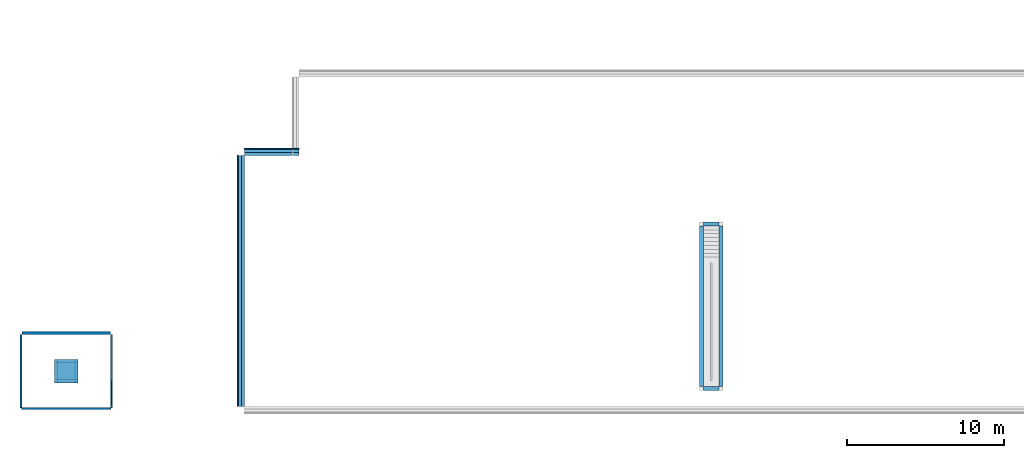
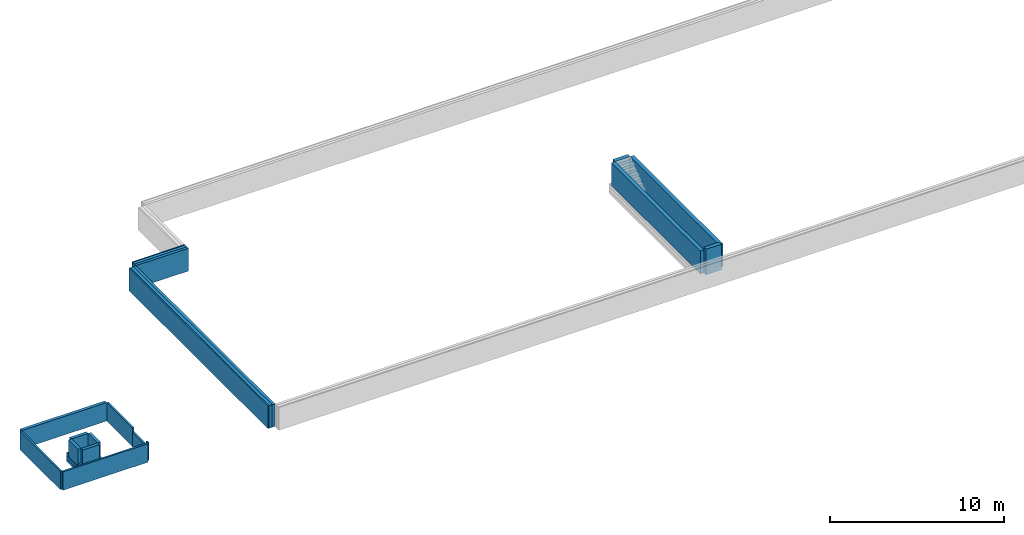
# One storey, part 1 of 3: 14 walls, 10 building element parts, 3 elements without a shape of their own.
"""IFC2X3 building model written with IfcOpenShell, lengths in millimetres."""

from ifc_helpers import new_model, entity, si_unit, converted_unit, derived_unit, money_unit, direction, frame, origin_with_axes, place, context, subcontext, project, spatial, polyline, outline, extrude, material, layer, layer_set, layer_usage, type_object, element, aggregate, save


model = new_model("IFC2X3")

# Units and contexts
model_context = context("Model", 3, precision=0.01, world=origin_with_axes(), true_north=direction((0.0, 1.0)))
body_context = subcontext(model_context, "Body", "Model", "MODEL_VIEW")
ifc_project = project(units=[si_unit("LENGTHUNIT", "METRE", prefix="MILLI"), si_unit("AREAUNIT", "SQUARE_METRE"), si_unit("VOLUMEUNIT", "CUBIC_METRE"), converted_unit("PLANEANGLEUNIT", "DEGREE", entity("IfcPlaneAngleMeasure", 0.0174532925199), si_unit("PLANEANGLEUNIT", "RADIAN"), dimensions=[0, 0, 0, 0, 0, 0, 0]), si_unit("SOLIDANGLEUNIT", "STERADIAN"), money_unit("EUR"), converted_unit("TIMEUNIT", "Year", entity("IfcTimeMeasure", 31556926.0), si_unit("TIMEUNIT", "SECOND"), dimensions=[0, 0, 1, 0, 0, 0, 0]), si_unit("MASSUNIT", "GRAM", prefix="KILO"), si_unit("THERMODYNAMICTEMPERATUREUNIT", "DEGREE_CELSIUS"), si_unit("LUMINOUSINTENSITYUNIT", "LUMEN"), si_unit("ENERGYUNIT", "JOULE", prefix="MEGA"), derived_unit("THERMALCONDUCTANCEUNIT", [(si_unit("POWERUNIT", "WATT"), 1), (si_unit("LENGTHUNIT", "METRE"), -1), (si_unit("THERMODYNAMICTEMPERATUREUNIT", "KELVIN"), -1)]), derived_unit("SPECIFICHEATCAPACITYUNIT", [(si_unit("ENERGYUNIT", "JOULE"), 1), (si_unit("MASSUNIT", "GRAM", prefix="KILO"), -1), (si_unit("THERMODYNAMICTEMPERATUREUNIT", "KELVIN"), -1)]), derived_unit("MASSDENSITYUNIT", [(si_unit("MASSUNIT", "GRAM", prefix="KILO"), 1), (si_unit("VOLUMEUNIT", "CUBIC_METRE"), -1)])], contexts=[model_context])

# Site, building, storey
site_placement = place(None, origin_with_axes())
site = spatial("IfcSite", under=ifc_project, at=site_placement, Name="Politse- ja Piirivalveameti ning Päästeameti ühishoone", CompositionType="ELEMENT")
building_placement = place(site_placement, origin_with_axes())
building = spatial("IfcBuilding", under=site, at=building_placement, Name="Politse- ja Piirivalveameti ning Päästeameti ühishoone", CompositionType="ELEMENT")
storey_placement = place(building_placement, frame((0.0, 0.0, -4000.0), z_axis=(0.0, 0.0, 1.0), x_axis=(1.0, 0.0, 0.0)))
storey = spatial("IfcBuildingStorey", under=building, at=storey_placement, Name="Vundament", CompositionType="ELEMENT", Elevation=-4000.0)

# Walls
ifc_material_1 = material(Name="KON-04_Betoon - Konstuktsioon")
ifc_layer_1 = layer(ifc_material_1, 250.0, ventilated="UNKNOWN")
ifc_layer_set_1 = layer_set([ifc_layer_1], Name="SS-09 remondikanali sein")
ifc_layer_usage_1 = layer_usage(ifc_layer_set_1, "AXIS2", "NEGATIVE", 0.0)
wall_type_1 = type_object("IfcWallType", Name="SS-09 remondikanali sein 250", PredefinedType="NOTDEFINED")
wall_1_placement = place(storey_placement, frame((29259.7054661, 1260.2911514, 2200.46188572), z_axis=(0.0, 0.0, 1.0), x_axis=(1.0, 0.0, 0.0)))
element("IfcWallStandardCase", 1, at=wall_1_placement, inside=storey, type_object=wall_type_1, material=ifc_layer_usage_1, Name="Välissein", context=body_context, shape_type="SweptSolid", body=[
    extrude(outline(polyline([(0.0, -250.0), (1000.0, -250.0), (1000.0, 0.0), (0.0, 0.0), (0.0, -250.0)])), origin_with_axes(), (0.0, 0.0, 1.0), 1799.53811428),
])
ifc_layer_usage_2 = layer_usage(ifc_layer_set_1, "AXIS2", "NEGATIVE", 0.0)
wall_2_placement = place(storey_placement, frame((29259.7054661, 11510.2911514, 2200.46188572), z_axis=(0.0, 0.0, 1.0), x_axis=(0.0, -1.0, 0.0)))
element("IfcWallStandardCase", 2, at=wall_2_placement, inside=storey, type_object=wall_type_1, material=ifc_layer_usage_2, Name="SS-09", context=body_context, shape_type="SweptSolid", body=[
    extrude(outline(polyline([(0.0, -250.0), (10250.0, -250.0), (10250.0, 0.0), (0.0, 0.0), (0.0, -250.0)])), origin_with_axes(), (0.0, 0.0, 1.0), 1599.53811428),
])
ifc_layer_usage_3 = layer_usage(ifc_layer_set_1, "AXIS2", "POSITIVE", 0.0)
wall_3_placement = place(storey_placement, frame((29259.7054661, 11510.2911514, 2200.46188572), z_axis=(0.0, 0.0, 1.0), x_axis=(1.0, 0.0, 0.0)))
element("IfcWallStandardCase", 3, at=wall_3_placement, inside=storey, type_object=wall_type_1, material=ifc_layer_usage_3, Name="Välissein", context=body_context, shape_type="SweptSolid", body=[
    extrude(outline(polyline([(0.0, 0.0), (1000.0, 0.0), (1000.0, 250.0), (0.0, 250.0), (0.0, 0.0)])), origin_with_axes(), (0.0, 0.0, 1.0), 1599.53811428),
])
ifc_layer_usage_4 = layer_usage(ifc_layer_set_1, "AXIS2", "NEGATIVE", 0.0)
wall_4_placement = place(storey_placement, frame((30259.7054661, 1260.2911514, 2194.69335421), z_axis=(0.0, 0.0, 1.0), x_axis=(0.0, 1.0, 0.0)))
element("IfcWallStandardCase", 4, at=wall_4_placement, inside=storey, type_object=wall_type_1, material=ifc_layer_usage_4, Name="Välissein", context=body_context, shape_type="SweptSolid", body=[
    extrude(outline(polyline([(0.0, -250.0), (10250.0, -250.0), (10250.0, 0.0), (0.0, 0.0), (0.0, -250.0)])), origin_with_axes(), (0.0, 0.0, 1.0), 1605.30664579),
])
ifc_material_2 = material(Name="Betoon")
ifc_layer_2 = layer(ifc_material_2, 200.0, ventilated="UNKNOWN")
ifc_layer_set_2 = layer_set([ifc_layer_2], Name="VS-22_välissein harjutustorn sokkel 200mm")
ifc_layer_usage_5 = layer_usage(ifc_layer_set_2, "AXIS2", "NEGATIVE", 200.0)
wall_type_2 = type_object("IfcWallType", Name="VS-22_välissein harjutustorn sokkel 200mm 200", PredefinedType="NOTDEFINED")
wall_5_placement = place(storey_placement, frame((-14182.0, 4575.4616888, 3000.04886871), z_axis=(0.0, 0.0, 1.0), x_axis=(1.0, 0.0, 0.0)))
element("IfcWallStandardCase", 5, at=wall_5_placement, inside=storey, type_object=wall_type_2, material=ifc_layer_usage_5, Name="VS-22", context=body_context, shape_type="SweptSolid", body=[
    extrude(outline(polyline([(0.0, 0.0), (5650.0, 0.0), (5650.0, 200.0), (0.0, 200.0), (0.0, 0.0)])), origin_with_axes(), (0.0, 0.0, 1.0), 1299.52186393),
])
ifc_layer_usage_6 = layer_usage(ifc_layer_set_2, "AXIS2", "POSITIVE", -200.0)
wall_6_placement = place(storey_placement, frame((-10807.1330329, 1700.11495418, 2800.0), z_axis=(0.0, 0.0, 1.0), x_axis=(0.000257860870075, 0.999999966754, 0.0)))
element("IfcWallStandardCase", 6, at=wall_6_placement, inside=storey, type_object=wall_type_2, material=ifc_layer_usage_6, Name="VS-22", context=body_context, shape_type="SweptSolid", body=[
    extrude(outline(polyline([(0.0, -200.0), (1099.99996343, -200.0), (1099.99996343, 0.0), (0.0, 0.0), (0.0, -200.0)])), origin_with_axes(), (0.0, 0.0, 1.0), 1200.0),
])
ifc_layer_usage_7 = layer_usage(ifc_layer_set_2, "AXIS2", "NEGATIVE", 200.0)
wall_7_placement = place(storey_placement, frame((-11906.8493859, 1700.11495418, 2800.0), z_axis=(0.0, 0.0, 1.0), x_axis=(0.0, 1.0, 0.0)))
element("IfcWallStandardCase", 7, at=wall_7_placement, inside=storey, type_object=wall_type_2, material=ifc_layer_usage_7, Name="VS-22", context=body_context, shape_type="SweptSolid", body=[
    extrude(outline(polyline([(0.0, 0.0), (1100.0, 0.0), (1100.0, 200.0), (0.0, 200.0), (0.0, 0.0)])), origin_with_axes(), (0.0, 0.0, 1.0), 1200.0),
])
ifc_layer_usage_8 = layer_usage(ifc_layer_set_2, "AXIS2", "NEGATIVE", 200.0)
wall_8_placement = place(storey_placement, frame((-10807.1330329, 1700.11495418, 2800.11914945), z_axis=(0.0, 0.0, 1.0), x_axis=(-1.0, 0.0, 0.0)))
element("IfcWallStandardCase", 8, at=wall_8_placement, inside=storey, type_object=wall_type_2, material=ifc_layer_usage_8, Name="VS-22", context=body_context, shape_type="SweptSolid", body=[
    extrude(outline(polyline([(0.0, 0.0), (1099.71635303, 0.0), (1099.71635303, 200.0), (0.0, 200.0), (0.0, 0.0)])), origin_with_axes(), (0.0, 0.0, 1.0), 1199.88085055),
])
ifc_layer_usage_9 = layer_usage(ifc_layer_set_2, "AXIS2", "POSITIVE", -200.0)
wall_9_placement = place(storey_placement, frame((-10806.8493859, 2800.11488104, 2800.11914945), z_axis=(0.0, 0.0, 1.0), x_axis=(-1.0, 6.64922282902e-08, 0.0)))
element("IfcWallStandardCase", 9, at=wall_9_placement, inside=storey, type_object=wall_type_2, material=ifc_layer_usage_9, Name="VS-22", context=body_context, shape_type="SweptSolid", body=[
    extrude(outline(polyline([(0.0, -200.0), (1099.99999998, -200.0), (1099.99999998, 0.0), (0.0, 0.0), (0.0, -200.0)])), origin_with_axes(), (0.0, 0.0, 1.0), 1199.88085055),
])
ifc_layer_3 = layer(ifc_material_2, 120.0, ventilated="UNKNOWN")
ifc_layer_set_3 = layer_set([ifc_layer_3], Name="VS-23_välissein harjutustorn sokkel 120mm")
ifc_layer_usage_10 = layer_usage(ifc_layer_set_3, "AXIS2", "POSITIVE", -120.0)
wall_type_3 = type_object("IfcWallType", Name="VS-23_välissein harjutustorn sokkel 120mm 120", PredefinedType="NOTDEFINED")
wall_10_placement = place(storey_placement, frame((-8532.0, 1625.11493577, 3000.04886871), z_axis=(0.0, 0.0, 1.0), x_axis=(0.0, 1.0, 0.0)))
element("IfcWallStandardCase", 10, at=wall_10_placement, inside=storey, type_object=wall_type_3, material=ifc_layer_usage_10, Name="VS-22", context=body_context, shape_type="SweptSolid", body=[
    extrude(outline(polyline([(0.0, -120.0), (2950.34675303, -120.0), (2950.34675303, 0.0), (0.0, 0.0), (0.0, -120.0)])), origin_with_axes(), (0.0, 0.0, 1.0), 1299.99049664),
])
ifc_layer_usage_11 = layer_usage(ifc_layer_set_3, "AXIS2", "POSITIVE", -120.0)
wall_11_placement = place(storey_placement, frame((-8532.0, -75.0, 3000.04886871), z_axis=(0.0, 0.0, 1.0), x_axis=(0.0, 1.0, 0.0)))
element("IfcWallStandardCase", 11, at=wall_11_placement, inside=storey, type_object=wall_type_3, material=ifc_layer_usage_11, Name="VS-22", context=body_context, shape_type="SweptSolid", body=[
    extrude(outline(polyline([(0.0, -120.0), (150.0, -120.0), (150.0, 0.0), (0.0, 0.0), (0.0, -120.0)])), origin_with_axes(), (0.0, 0.0, 1.0), 1299.99049664),
])
ifc_layer_usage_12 = layer_usage(ifc_layer_set_3, "AXIS2", "POSITIVE", -120.0)
wall_12_placement = place(storey_placement, frame((-14182.0, -75.0, 3000.04886871), z_axis=(0.0, 0.0, 1.0), x_axis=(1.0, 0.0, 0.0)))
element("IfcWallStandardCase", 12, at=wall_12_placement, inside=storey, type_object=wall_type_3, material=ifc_layer_usage_12, Name="VS-23", context=body_context, shape_type="SweptSolid", body=[
    extrude(outline(polyline([(0.0, -120.0), (5650.0, -120.0), (5650.0, 0.0), (0.0, 0.0), (0.0, -120.0)])), origin_with_axes(), (0.0, 0.0, 1.0), 1299.52186393),
])
ifc_layer_usage_13 = layer_usage(ifc_layer_set_3, "AXIS2", "NEGATIVE", 120.0)
wall_13_placement = place(storey_placement, frame((-14182.0, -75.0, 3000.04886871), z_axis=(0.0, 0.0, 1.0), x_axis=(0.0, 1.0, 0.0)))
element("IfcWallStandardCase", 13, at=wall_13_placement, inside=storey, type_object=wall_type_3, material=ifc_layer_usage_13, Name="VS-22", context=body_context, shape_type="SweptSolid", body=[
    extrude(outline(polyline([(0.0, 0.0), (4650.4616888, 0.0), (4650.4616888, 120.0), (0.0, 120.0), (0.0, 0.0)])), origin_with_axes(), (0.0, 0.0, 1.0), 1299.99049664),
])
ifc_layer_usage_14 = layer_usage(ifc_layer_set_3, "AXIS2", "NEGATIVE", 120.0)
wall_14_placement = place(storey_placement, frame((-8412.0, 75.0, 3000.04886871), z_axis=(0.0, 0.0, 1.0), x_axis=(0.0, 1.0, 0.0)))
element("IfcWallStandardCase", 14, at=wall_14_placement, inside=storey, type_object=wall_type_3, material=ifc_layer_usage_14, Name="VS-22", context=body_context, shape_type="SweptSolid", body=[
    extrude(outline(polyline([(0.0, 0.0), (1550.11493577, 0.0), (1550.11493577, 120.0), (0.0, 120.0), (0.0, 0.0)])), origin_with_axes(), (0.0, 0.0, 1.0), 999.951131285),
])

# Wall, building element parts
wall_type_4 = type_object("IfcWallType", Name="VS-02_välissein - soklipaneel 460", PredefinedType="NOTDEFINED")
wall_15_placement = place(storey_placement, frame((0.0, 0.0, 2400.0), z_axis=(0.0, 0.0, 1.0), x_axis=(0.0, 1.0, 0.0)))
wall_15 = element("IfcWall", 15, at=wall_15_placement, inside=storey, type_object=wall_type_4, Name="VS-02")
building_element_part_1_placement = place(wall_15_placement, origin_with_axes())
building_element_part_1 = element("IfcBuildingElementPart", 16, at=building_element_part_1_placement, material=ifc_material_1, Name="KON-04_Betoon - Konstuktsioon", context=body_context, shape_type="SweptSolid", body=[
    extrude(outline(polyline([(0.0, 0.0), (16000.0244444, 0.0), (16000.0244444, 180.0), (0.0, 180.0), (0.0, 0.0)])), origin_with_axes(), (0.0, 0.0, 1.0), 1600.0),
])
ifc_material_3 = material(Name="SOJ-06_Soojustus - Plastik Kõva")
building_element_part_2_placement = place(wall_15_placement, origin_with_axes())
building_element_part_2 = element("IfcBuildingElementPart", 17, at=building_element_part_2_placement, material=ifc_material_3, Name="SOJ-06_Soojustus - Plastik Kõva", context=body_context, shape_type="SweptSolid", body=[
    extrude(outline(polyline([(0.0, 180.0), (16000.0244444, 180.0), (16000.0244444, 380.0), (0.0, 380.0), (0.0, 180.0)])), origin_with_axes(), (0.0, 0.0, 1.0), 1600.0),
])
building_element_part_3_placement = place(wall_15_placement, origin_with_axes())
building_element_part_3 = element("IfcBuildingElementPart", 18, at=building_element_part_3_placement, material=ifc_material_1, Name="KON-04_Betoon - Konstuktsioon", context=body_context, shape_type="SweptSolid", body=[
    extrude(outline(polyline([(0.0, 380.0), (16000.0244444, 380.0), (16000.0244444, 460.0), (0.0, 460.0), (0.0, 380.0)])), origin_with_axes(), (0.0, 0.0, 1.0), 1600.0),
])
aggregate(wall_15, [building_element_part_1, building_element_part_2, building_element_part_3])

wall_16_placement = place(storey_placement, frame((0.0, 16000.0244444, 2400.0), z_axis=(0.0, 0.0, 1.0), x_axis=(1.0, 0.0, 0.0)))
wall_16 = element("IfcWall", 19, at=wall_16_placement, inside=storey, type_object=wall_type_4, Name="VS-02")
building_element_part_4_placement = place(wall_16_placement, origin_with_axes())
building_element_part_4 = element("IfcBuildingElementPart", 20, at=building_element_part_4_placement, material=ifc_material_1, Name="KON-04_Betoon - Konstuktsioon", context=body_context, shape_type="SweptSolid", body=[
    extrude(outline(polyline([(0.0, 0.0), (3500.00534722, 0.0), (3500.00534722, 180.0), (0.0, 180.0), (0.0, 0.0)])), origin_with_axes(), (0.0, 0.0, 1.0), 1600.0),
])
building_element_part_5_placement = place(wall_16_placement, origin_with_axes())
building_element_part_5 = element("IfcBuildingElementPart", 21, at=building_element_part_5_placement, material=ifc_material_3, Name="SOJ-06_Soojustus - Plastik Kõva", context=body_context, shape_type="SweptSolid", body=[
    extrude(outline(polyline([(0.0, 180.0), (3500.00534722, 180.0), (3500.00534722, 380.0), (0.0, 380.0), (0.0, 180.0)])), origin_with_axes(), (0.0, 0.0, 1.0), 1600.0),
])
building_element_part_6_placement = place(wall_16_placement, origin_with_axes())
building_element_part_6 = element("IfcBuildingElementPart", 22, at=building_element_part_6_placement, material=ifc_material_1, Name="KON-04_Betoon - Konstuktsioon", context=body_context, shape_type="SweptSolid", body=[
    extrude(outline(polyline([(0.0, 380.0), (3500.00534722, 380.0), (3500.00534722, 460.0), (0.0, 460.0), (0.0, 380.0)])), origin_with_axes(), (0.0, 0.0, 1.0), 1600.0),
])
aggregate(wall_16, [building_element_part_4, building_element_part_5, building_element_part_6])

# Slab, building element parts
slab_type = type_object("IfcSlabType", Name="PP-21_Põrand pinnasel harjutustorn copy 630", PredefinedType="ROOF")
slab_placement = place(storey_placement, frame((-12106.8493859, 3000.11496748, 3000.0), z_axis=(0.0, 0.0, 1.0), x_axis=(1.0, 0.0, 0.0)))
slab = element("IfcSlab", 23, at=slab_placement, inside=storey, type_object=slab_type, Name="PP-21", PredefinedType="ROOF")
ifc_material_4 = material(Name="VKK-02_Liiv")
building_element_part_7_placement = place(slab_placement, origin_with_axes())
building_element_part_7 = element("IfcBuildingElementPart", 24, at=building_element_part_7_placement, material=ifc_material_4, Name="VKK-02_Liiv", context=body_context, shape_type="SweptSolid", body=[
    extrude(outline(polyline([(0.0, 0.0), (0.0, -1500.0000133), (1499.66478751, -1500.0000133), (1500.0515788, -9.97417721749e-05), (0.0, 0.0)])), frame((0.0, 0.0, -630.0), z_axis=(0.0, 0.0, 1.0), x_axis=(1.0, 0.0, 0.0)), (0.0, 0.0, 1.0), 200.0),
])
ifc_material_5 = material(Name="VKK-03_Kruus")
building_element_part_8_placement = place(slab_placement, origin_with_axes())
building_element_part_8 = element("IfcBuildingElementPart", 25, at=building_element_part_8_placement, material=ifc_material_5, Name="VKK-03_Kruus", context=body_context, shape_type="SweptSolid", body=[
    extrude(outline(polyline([(0.0, 0.0), (0.0, -1500.0000133), (1499.66478751, -1500.0000133), (1500.0515788, -9.97417721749e-05), (0.0, 0.0)])), frame((0.0, 0.0, -430.0), z_axis=(0.0, 0.0, 1.0), x_axis=(1.0, 0.0, 0.0)), (0.0, 0.0, 1.0), 200.0),
])
building_element_part_9_placement = place(slab_placement, origin_with_axes())
building_element_part_9 = element("IfcBuildingElementPart", 26, at=building_element_part_9_placement, material=ifc_material_4, Name="VKK-02_Liiv", context=body_context, shape_type="SweptSolid", body=[
    extrude(outline(polyline([(0.0, 0.0), (0.0, -1500.0000133), (1499.66478751, -1500.0000133), (1500.0515788, -9.97417721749e-05), (0.0, 0.0)])), frame((0.0, 0.0, -230.0), z_axis=(0.0, 0.0, 1.0), x_axis=(1.0, 0.0, 0.0)), (0.0, 0.0, 1.0), 30.0),
])
ifc_material_6 = material(Name="SV-03_Plaat - Põrand")
building_element_part_10_placement = place(slab_placement, origin_with_axes())
building_element_part_10 = element("IfcBuildingElementPart", 27, at=building_element_part_10_placement, material=ifc_material_6, Name="SV-03_Plaat - Põrand", context=body_context, shape_type="SweptSolid", body=[
    extrude(outline(polyline([(0.0, 0.0), (0.0, -1500.0000133), (1499.66478751, -1500.0000133), (1500.0515788, -9.97417721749e-05), (0.0, 0.0)])), frame((0.0, 0.0, -200.0), z_axis=(0.0, 0.0, 1.0), x_axis=(1.0, 0.0, 0.0)), (0.0, 0.0, 1.0), 200.0),
])
aggregate(slab, [building_element_part_7, building_element_part_8, building_element_part_9, building_element_part_10])

save(model, "model.ifc")
